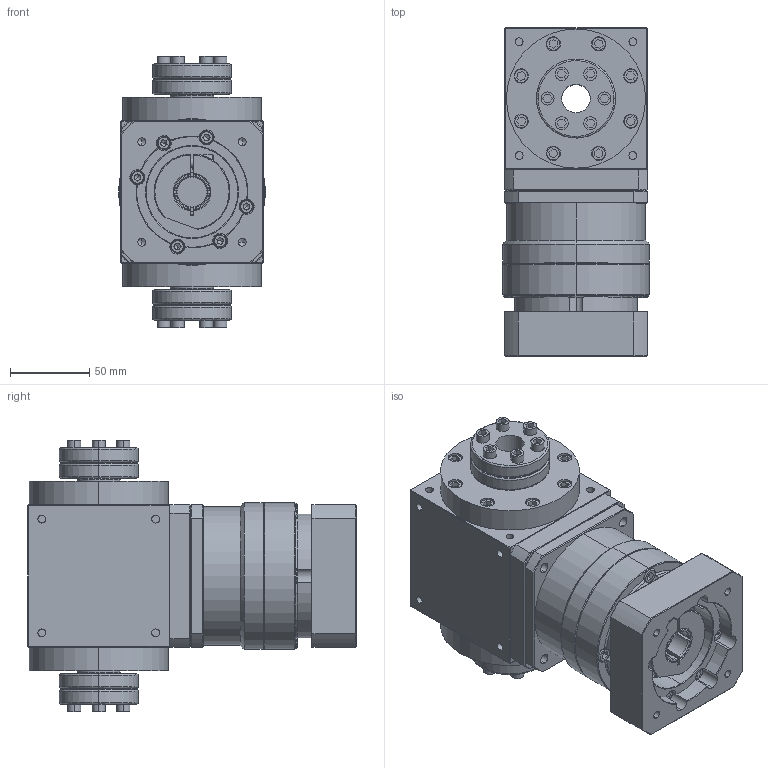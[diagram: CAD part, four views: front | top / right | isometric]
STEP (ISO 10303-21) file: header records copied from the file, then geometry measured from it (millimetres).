
FILE_DESCRIPTION (( 'STEP AP203' ), '1' );
FILE_NAME ('AT090-FC-L1 19-70-90-M6.STEP', '2024-12-19T06:17:57', ( '' ), ( '' ), 'SwSTEP 2.0', 'SolidWorks 2021', '' );
FILE_SCHEMA (( 'CONFIG_CONTROL_DESIGN' ));
Length unit declared in the file: millimetre
Products named in the file (3): AT090-FC; AT090-FC-L1 19-70-90-M6; VRB-090-L1-S2-P1 19-70-90-M6
Assembly tree (2 placements, depth 2):
  AT090-FC-L1 19-70-90-M6
    AT090-FC
    VRB-090-L1-S2-P1 19-70-90-M6
Bounding box: 93 x 208 x 172 mm (x, y, z)
Volume: 1675177 mm3; surface area: 227789.1 mm2
Topology: 32 solids, 32 shells, 1444 faces, 3488 edges, 2190 vertices
Faces by surface type: plane 670, cylinder 535, cone 181, torus 38, bspline 20
Entity records: 44143 total; most frequent: CARTESIAN_POINT 9980, DIRECTION 7351, ORIENTED_EDGE 6852, EDGE_CURVE 3426, AXIS2_PLACEMENT_3D 2798, VERTEX_POINT 2190, LINE 1755, VECTOR 1755
